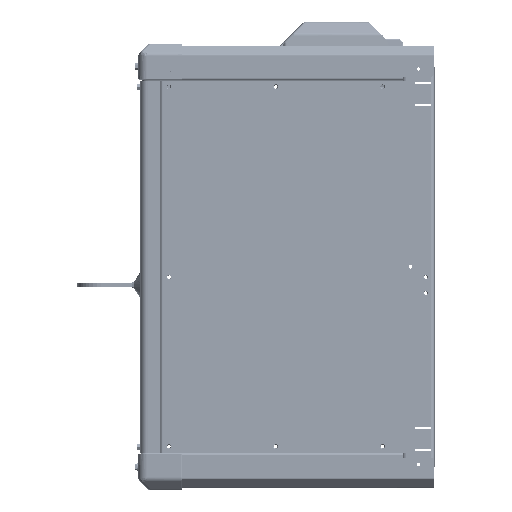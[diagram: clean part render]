
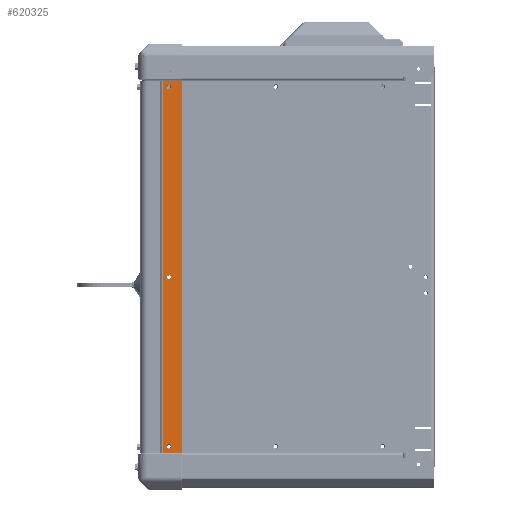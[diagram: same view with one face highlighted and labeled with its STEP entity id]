
A CAD part, left-side view. The second image highlights one B-rep face of the part: STEP entity #620325.
In plain terms, the highlighted planar face has unit normal (-1, 0, 0).
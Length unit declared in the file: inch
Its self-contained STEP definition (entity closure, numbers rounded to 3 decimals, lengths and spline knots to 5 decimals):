
#13351 = CARTESIAN_POINT ( 'NONE',  ( -7.77, -1.38649, 11.6385 ) ) ;
#18326 = DIRECTION ( 'NONE',  ( 0., 0., 1. ) ) ;
#48767 = CARTESIAN_POINT ( 'NONE',  ( -7.77, -1.782, -11.399 ) ) ;
#51086 = CARTESIAN_POINT ( 'NONE',  ( -7.77, -1.782, 11.399 ) ) ;
#55546 = EDGE_CURVE ( 'NONE', #177198, #263537, #226006, .T. ) ;
#58815 = AXIS2_PLACEMENT_3D ( 'NONE', #575695, #209126, #573452 ) ;
#74320 = ORIENTED_EDGE ( 'NONE', *, *, #545365, .T. ) ;
#75712 = DIRECTION ( 'NONE',  ( 0., 0., -1. ) ) ;
#88302 = CARTESIAN_POINT ( 'NONE',  ( -7.77, -1.38649, 0. ) ) ;
#91592 = CIRCLE ( 'NONE', #212261, 0.1405 ) ;
#97641 = CARTESIAN_POINT ( 'NONE',  ( -7.77, -1.782, -0.6495 ) ) ;
#102142 = DIRECTION ( 'NONE',  ( 0., 0., -1. ) ) ;
#109234 = AXIS2_PLACEMENT_3D ( 'NONE', #256185, #365456, #672583 ) ;
#116398 = LINE ( 'NONE', #251595, #344654 ) ;
#121088 = ORIENTED_EDGE ( 'NONE', *, *, #463746, .F. ) ;
#122916 = VERTEX_POINT ( 'NONE', #363091 ) ;
#139157 = ORIENTED_EDGE ( 'NONE', *, *, #668997, .T. ) ;
#159484 = ORIENTED_EDGE ( 'NONE', *, *, #55546, .T. ) ;
#168505 = DIRECTION ( 'NONE',  ( 1., 0., 0. ) ) ;
#177198 = VERTEX_POINT ( 'NONE', #48767 ) ;
#182539 = DIRECTION ( 'NONE',  ( 1., 0., 0. ) ) ;
#204729 = EDGE_LOOP ( 'NONE', ( #139157, #121088, #233147, #482091 ) ) ;
#209126 = DIRECTION ( 'NONE',  ( 1., 0., 0. ) ) ;
#212261 = AXIS2_PLACEMENT_3D ( 'NONE', #97641, #414197, #102142 ) ;
#212644 = AXIS2_PLACEMENT_3D ( 'NONE', #601389, #182539, #75712 ) ;
#226006 = CIRCLE ( 'NONE', #644040, 0.1405 ) ;
#230171 = CARTESIAN_POINT ( 'NONE',  ( -7.77, -2.575, -11.6385 ) ) ;
#231891 = CARTESIAN_POINT ( 'NONE',  ( -7.77, -1.782, 11.2585 ) ) ;
#233147 = ORIENTED_EDGE ( 'NONE', *, *, #628525, .F. ) ;
#234367 = VERTEX_POINT ( 'NONE', #452193 ) ;
#234391 = EDGE_CURVE ( 'NONE', #311998, #122916, #116398, .T. ) ;
#247751 = VERTEX_POINT ( 'NONE', #308100 ) ;
#251595 = CARTESIAN_POINT ( 'NONE',  ( -7.77, -2.55801, 11.6385 ) ) ;
#252505 = DIRECTION ( 'NONE',  ( 0., 0., -1. ) ) ;
#256185 = CARTESIAN_POINT ( 'NONE',  ( -7.77, -1.782, 11.2585 ) ) ;
#263537 = VERTEX_POINT ( 'NONE', #377388 ) ;
#284380 = DIRECTION ( 'NONE',  ( 1., 0., 0. ) ) ;
#289056 = LINE ( 'NONE', #445122, #329624 ) ;
#292233 = DIRECTION ( 'NONE',  ( 1., 0., 0. ) ) ;
#292844 = VERTEX_POINT ( 'NONE', #312888 ) ;
#295404 = AXIS2_PLACEMENT_3D ( 'NONE', #231891, #284380, #648410 ) ;
#305394 = EDGE_CURVE ( 'NONE', #234367, #674442, #91592, .T. ) ;
#308100 = CARTESIAN_POINT ( 'NONE',  ( -7.77, -1.38649, -11.6385 ) ) ;
#311998 = VERTEX_POINT ( 'NONE', #13351 ) ;
#312888 = CARTESIAN_POINT ( 'NONE',  ( -7.77, -1.782, 11.118 ) ) ;
#323579 = CARTESIAN_POINT ( 'NONE',  ( -7.77, -1.782, -11.2585 ) ) ;
#329624 = VECTOR ( 'NONE', #501886, 39.37008 ) ;
#344654 = VECTOR ( 'NONE', #644772, 39.37008 ) ;
#359586 = CARTESIAN_POINT ( 'NONE',  ( -7.77, -2.575, -11.6385 ) ) ;
#363091 = CARTESIAN_POINT ( 'NONE',  ( -7.77, -2.575, 11.6385 ) ) ;
#364210 = PLANE ( 'NONE',  #58815 ) ;
#365456 = DIRECTION ( 'NONE',  ( 1., 0., 0. ) ) ;
#371609 = CIRCLE ( 'NONE', #109234, 0.1405 ) ;
#374943 = FACE_BOUND ( 'NONE', #462711, .T. ) ;
#377388 = CARTESIAN_POINT ( 'NONE',  ( -7.77, -1.782, -11.118 ) ) ;
#395473 = EDGE_CURVE ( 'NONE', #674442, #234367, #655780, .T. ) ;
#403282 = VECTOR ( 'NONE', #252505, 39.37008 ) ;
#414197 = DIRECTION ( 'NONE',  ( 1., 0., 0. ) ) ;
#423161 = EDGE_LOOP ( 'NONE', ( #159484, #74320 ) ) ;
#430467 = AXIS2_PLACEMENT_3D ( 'NONE', #501630, #292233, #451531 ) ;
#438043 = ORIENTED_EDGE ( 'NONE', *, *, #395473, .T. ) ;
#445122 = CARTESIAN_POINT ( 'NONE',  ( -7.77, -0.06301, -11.6385 ) ) ;
#451531 = DIRECTION ( 'NONE',  ( 0., 0., 1. ) ) ;
#452193 = CARTESIAN_POINT ( 'NONE',  ( -7.77, -1.782, -0.79 ) ) ;
#462711 = EDGE_LOOP ( 'NONE', ( #665510, #438043 ) ) ;
#463746 = EDGE_CURVE ( 'NONE', #493621, #247751, #289056, .T. ) ;
#464504 = FACE_OUTER_BOUND ( 'NONE', #204729, .T. ) ;
#478908 = EDGE_CURVE ( 'NONE', #623676, #292844, #371609, .T. ) ;
#482091 = ORIENTED_EDGE ( 'NONE', *, *, #234391, .F. ) ;
#492779 = EDGE_LOOP ( 'NONE', ( #647934, #636431 ) ) ;
#493621 = VERTEX_POINT ( 'NONE', #230171 ) ;
#501630 = CARTESIAN_POINT ( 'NONE',  ( -7.77, -1.782, -11.2585 ) ) ;
#501886 = DIRECTION ( 'NONE',  ( 0., 1., 0. ) ) ;
#507042 = VECTOR ( 'NONE', #531034, 39.37008 ) ;
#521244 = FACE_BOUND ( 'NONE', #492779, .T. ) ;
#531034 = DIRECTION ( 'NONE',  ( 0., 0., -1. ) ) ;
#541600 = LINE ( 'NONE', #359586, #403282 ) ;
#545365 = EDGE_CURVE ( 'NONE', #263537, #177198, #547830, .T. ) ;
#547830 = CIRCLE ( 'NONE', #430467, 0.1405 ) ;
#573452 = DIRECTION ( 'NONE',  ( 0., -1., 0. ) ) ;
#575695 = CARTESIAN_POINT ( 'NONE',  ( -7.77, 0.01699, 0. ) ) ;
#601389 = CARTESIAN_POINT ( 'NONE',  ( -7.77, -1.782, -0.6495 ) ) ;
#620325 = ADVANCED_FACE ( 'NONE', ( #659549, #374943, #521244, #464504 ), #364210, .F. ) ;
#623676 = VERTEX_POINT ( 'NONE', #51086 ) ;
#626555 = EDGE_CURVE ( 'NONE', #292844, #623676, #633578, .T. ) ;
#628525 = EDGE_CURVE ( 'NONE', #122916, #493621, #541600, .T. ) ;
#633578 = CIRCLE ( 'NONE', #295404, 0.1405 ) ;
#636431 = ORIENTED_EDGE ( 'NONE', *, *, #478908, .T. ) ;
#644040 = AXIS2_PLACEMENT_3D ( 'NONE', #323579, #168505, #18326 ) ;
#644772 = DIRECTION ( 'NONE',  ( 0., -1., 0. ) ) ;
#647934 = ORIENTED_EDGE ( 'NONE', *, *, #626555, .T. ) ;
#648410 = DIRECTION ( 'NONE',  ( 0., 0., -1. ) ) ;
#655780 = CIRCLE ( 'NONE', #212644, 0.1405 ) ;
#659549 = FACE_BOUND ( 'NONE', #423161, .T. ) ;
#661675 = LINE ( 'NONE', #88302, #507042 ) ;
#664646 = CARTESIAN_POINT ( 'NONE',  ( -7.77, -1.782, -0.509 ) ) ;
#665510 = ORIENTED_EDGE ( 'NONE', *, *, #305394, .T. ) ;
#668997 = EDGE_CURVE ( 'NONE', #311998, #247751, #661675, .T. ) ;
#672583 = DIRECTION ( 'NONE',  ( 0., 0., -1. ) ) ;
#674442 = VERTEX_POINT ( 'NONE', #664646 ) ;
